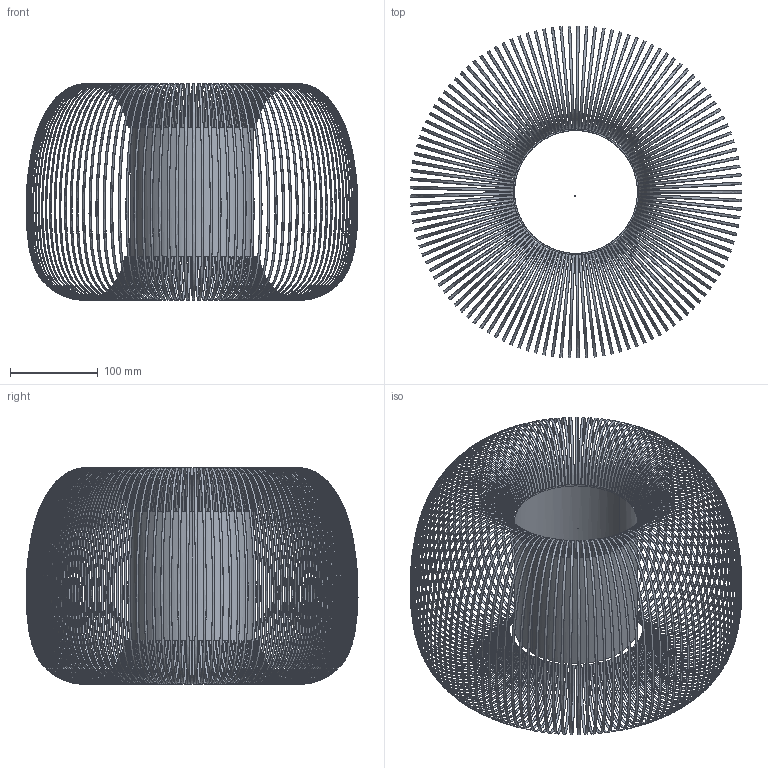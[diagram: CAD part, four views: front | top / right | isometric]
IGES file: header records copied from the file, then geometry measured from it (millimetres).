
Start section: SolidWorks IGES file using analytic representation for surfaces
Global section: file name: C:\Users\a.sempere\Desktop\PANTALLAS\MIRTA\MIRTA-C30550-3D.IGS; native system: SolidWorks 2024; preprocessor: SolidWorks 2024; author: a.sempere; date: 250120.110807; units: millimetre
Bounding box: 377.98 x 378.02 x 246.27 mm (x, y, z)
Surface area: 402289.1 mm2 (no closed solid volume)
Topology: 0 solids, 0 shells, 488 faces, 2088 edges, 2088 vertices
Faces by surface type: bspline 488
